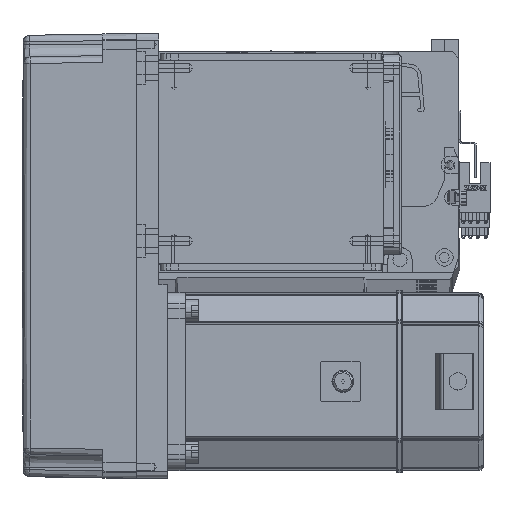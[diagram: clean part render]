
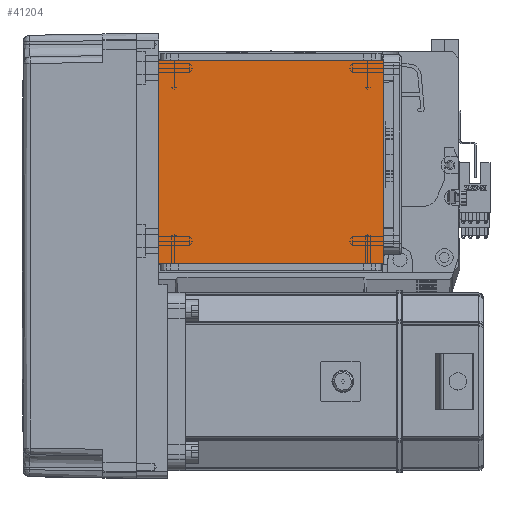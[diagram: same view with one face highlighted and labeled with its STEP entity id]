
A CAD part, top view. The second image highlights one B-rep face of the part: STEP entity #41204.
In plain terms, the highlighted planar face has unit normal (0, 0, 1).
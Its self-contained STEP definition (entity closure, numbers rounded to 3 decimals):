
#1923 = LINE ( 'NONE', #39241, #62606 ) ;
#4338 = CARTESIAN_POINT ( 'NONE',  ( -50.5, 111.5, 115. ) ) ;
#6326 = CARTESIAN_POINT ( 'NONE',  ( -50.5, 20., 115. ) ) ;
#6438 = PLANE ( 'NONE',  #28382 ) ;
#9321 = VERTEX_POINT ( 'NONE', #6326 ) ;
#10747 = ORIENTED_EDGE ( 'NONE', *, *, #24393, .F. ) ;
#13073 = VECTOR ( 'NONE', #42010, 1000. ) ;
#14127 = VECTOR ( 'NONE', #32363, 1000. ) ;
#16607 = CARTESIAN_POINT ( 'NONE',  ( 0., 0., 115. ) ) ;
#17267 = DIRECTION ( 'NONE',  ( 1., 0., 0. ) ) ;
#19825 = CARTESIAN_POINT ( 'NONE',  ( 50.5, 111.5, 115. ) ) ;
#20922 = EDGE_CURVE ( 'NONE', #54597, #60520, #56938, .T. ) ;
#24393 = EDGE_CURVE ( 'NONE', #53515, #9321, #44709, .T. ) ;
#28382 = AXIS2_PLACEMENT_3D ( 'NONE', #16607, #49295, #17267 ) ;
#29541 = CARTESIAN_POINT ( 'NONE',  ( -70.004, 20., 115. ) ) ;
#32363 = DIRECTION ( 'NONE',  ( 0., 1., 0. ) ) ;
#32715 = LINE ( 'NONE', #64367, #14127 ) ;
#36606 = CARTESIAN_POINT ( 'NONE',  ( -70.004, 111.5, 115. ) ) ;
#37587 = FACE_OUTER_BOUND ( 'NONE', #54938, .T. ) ;
#39241 = CARTESIAN_POINT ( 'NONE',  ( -50.5, 122., 115. ) ) ;
#41204 = ADVANCED_FACE ( 'NONE', ( #37587 ), #6438, .T. ) ;
#42010 = DIRECTION ( 'NONE',  ( 1., 0., 0. ) ) ;
#42107 = ORIENTED_EDGE ( 'NONE', *, *, #60114, .T. ) ;
#43072 = ORIENTED_EDGE ( 'NONE', *, *, #50633, .T. ) ;
#44709 = LINE ( 'NONE', #29541, #64966 ) ;
#44914 = DIRECTION ( 'NONE',  ( 0., -1., 0. ) ) ;
#45638 = ORIENTED_EDGE ( 'NONE', *, *, #20922, .F. ) ;
#49295 = DIRECTION ( 'NONE',  ( 0., 0., 1. ) ) ;
#50633 = EDGE_CURVE ( 'NONE', #54597, #9321, #1923, .T. ) ;
#53515 = VERTEX_POINT ( 'NONE', #62817 ) ;
#54597 = VERTEX_POINT ( 'NONE', #4338 ) ;
#54938 = EDGE_LOOP ( 'NONE', ( #45638, #43072, #10747, #42107 ) ) ;
#56938 = LINE ( 'NONE', #36606, #13073 ) ;
#60114 = EDGE_CURVE ( 'NONE', #53515, #60520, #32715, .T. ) ;
#60520 = VERTEX_POINT ( 'NONE', #19825 ) ;
#62606 = VECTOR ( 'NONE', #44914, 1000. ) ;
#62817 = CARTESIAN_POINT ( 'NONE',  ( 50.5, 20., 115. ) ) ;
#64367 = CARTESIAN_POINT ( 'NONE',  ( 50.5, 122., 115. ) ) ;
#64966 = VECTOR ( 'NONE', #67155, 1000. ) ;
#67155 = DIRECTION ( 'NONE',  ( -1., 0., 0. ) ) ;
